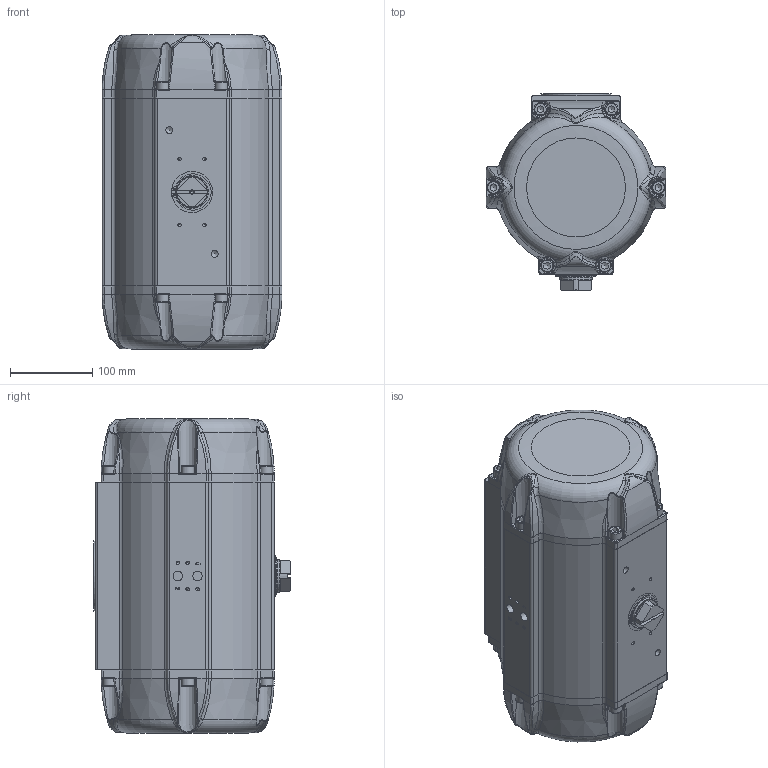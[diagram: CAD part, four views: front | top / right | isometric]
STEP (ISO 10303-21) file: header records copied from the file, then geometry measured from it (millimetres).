
FILE_DESCRIPTION((''),'2;1');
FILE_NAME('Z:\DOKUMENTATION ANTRIEBSPROGRAMM\Antriebe (neu)\BR16_SAD_SAF_90°\STEP-Dateien\35\ENG-084384_Shrinkwrap_1.stp','2017-06-20T14:08:30',('vmi'),(''),'Autodesk Inventor 2013','Autodesk Inventor 2013','');
FILE_SCHEMA(('AUTOMOTIVE_DESIGN { 1 0 10303 214 1 1 1 1 }'));
Length unit declared in the file: millimetre
Products named in the file (1): ENG-084384_Shrinkwrap_1
Bounding box: 218 x 239.5 x 382 mm (x, y, z)
Surface area: 396530.5 mm2 (no closed solid volume)
Topology: 0 solids, 27 shells, 627 faces, 2266 edges, 1586 vertices
Faces by surface type: cylinder 187, plane 174, bspline 172, cone 59, torus 35
Full cylindrical faces by diameter (mm): 2.5 x2, 4.134 x8, 4.917 x1, 8.376 x6, 10.106 x4, 11.445 x2, 13.835 x4, 16 x12, 37 x1, 39.8 x1, 60 x2, 85 x1
Entity records: 31659 total; most frequent: CARTESIAN_POINT 14315, ORIENTED_EDGE 3383, DIRECTION 2860, EDGE_CURVE 2123, VERTEX_POINT 1543, AXIS2_PLACEMENT_3D 1128, EDGE_LOOP 777, B_SPLINE_CURVE_WITH_KNOTS 754
